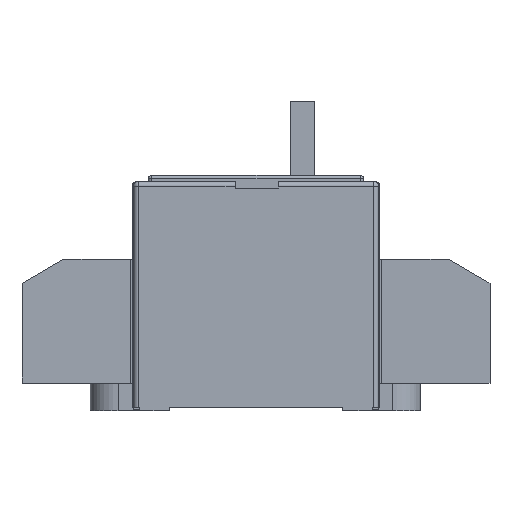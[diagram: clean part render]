
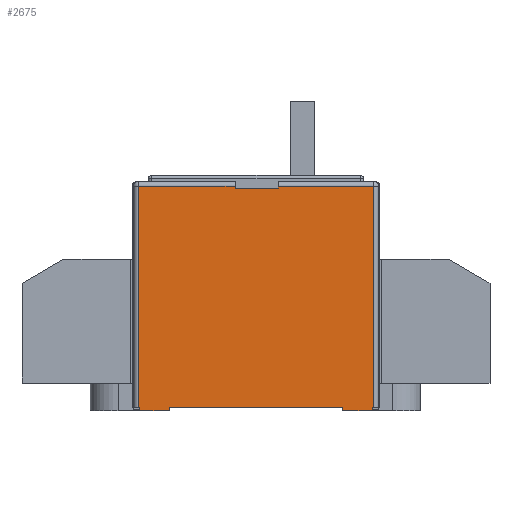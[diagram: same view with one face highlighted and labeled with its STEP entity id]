
A CAD part, left-side view. The second image highlights one B-rep face of the part: STEP entity #2675.
In plain terms, the highlighted planar face has unit normal (-1, 0, 0).
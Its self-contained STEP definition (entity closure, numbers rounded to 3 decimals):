
#802=LINE('',#13640,#1792);
#851=LINE('',#13757,#1841);
#853=LINE('',#13763,#1843);
#932=LINE('',#14112,#1922);
#949=LINE('',#14199,#1939);
#993=LINE('',#14297,#1983);
#998=LINE('',#14309,#1988);
#1000=LINE('',#14312,#1990);
#1006=LINE('',#14325,#1996);
#1174=LINE('',#14667,#2164);
#1180=LINE('',#14678,#2170);
#1181=LINE('',#14682,#2171);
#1182=LINE('',#14684,#2172);
#1183=LINE('',#14686,#2173);
#1184=LINE('',#14687,#2174);
#1185=LINE('',#14688,#2175);
#1792=VECTOR('',#11039,1.);
#1841=VECTOR('',#11124,1.);
#1843=VECTOR('',#11130,1.);
#1922=VECTOR('',#11447,1.);
#1939=VECTOR('',#11564,1.);
#1983=VECTOR('',#11662,1.);
#1988=VECTOR('',#11669,1.);
#1990=VECTOR('',#11673,1.);
#1996=VECTOR('',#11681,1.);
#2164=VECTOR('',#11981,1.);
#2170=VECTOR('',#11993,1.);
#2171=VECTOR('',#11998,1.);
#2172=VECTOR('',#11999,1.);
#2173=VECTOR('',#12000,1.);
#2174=VECTOR('',#12001,1.);
#2175=VECTOR('',#12002,1.);
#2675=ADVANCED_FACE('',(#3436),#2994,.F.);
#2994=PLANE('',#9652);
#3436=FACE_OUTER_BOUND('',#3959,.T.);
#3959=EDGE_LOOP('',(#6078,#6079,#6080,#6081,#6082,#6083,#6084,#6085,#6086,
#6087,#6088,#6089,#6090,#6091,#6092,#6093));
#6078=ORIENTED_EDGE('',*,*,#8576,.F.);
#6079=ORIENTED_EDGE('',*,*,#8325,.T.);
#6080=ORIENTED_EDGE('',*,*,#8127,.T.);
#6081=ORIENTED_EDGE('',*,*,#8071,.F.);
#6082=ORIENTED_EDGE('',*,*,#8130,.T.);
#6083=ORIENTED_EDGE('',*,*,#8282,.T.);
#6084=ORIENTED_EDGE('',*,*,#8578,.T.);
#6085=ORIENTED_EDGE('',*,*,#8579,.T.);
#6086=ORIENTED_EDGE('',*,*,#8580,.F.);
#6087=ORIENTED_EDGE('',*,*,#8375,.F.);
#6088=ORIENTED_EDGE('',*,*,#8380,.T.);
#6089=ORIENTED_EDGE('',*,*,#8581,.T.);
#6090=ORIENTED_EDGE('',*,*,#8388,.F.);
#6091=ORIENTED_EDGE('',*,*,#8382,.F.);
#6092=ORIENTED_EDGE('',*,*,#8570,.T.);
#6093=ORIENTED_EDGE('',*,*,#8582,.T.);
#7048=VERTEX_POINT('',#13639);
#7049=VERTEX_POINT('',#13641);
#7095=VERTEX_POINT('',#13758);
#7097=VERTEX_POINT('',#13764);
#7204=VERTEX_POINT('',#14107);
#7205=VERTEX_POINT('',#14111);
#7253=VERTEX_POINT('',#14298);
#7254=VERTEX_POINT('',#14299);
#7258=VERTEX_POINT('',#14308);
#7259=VERTEX_POINT('',#14313);
#7260=VERTEX_POINT('',#14314);
#7263=VERTEX_POINT('',#14322);
#7372=VERTEX_POINT('',#14666);
#7375=VERTEX_POINT('',#14679);
#7376=VERTEX_POINT('',#14683);
#7377=VERTEX_POINT('',#14685);
#8071=EDGE_CURVE('',#7048,#7049,#802,.T.);
#8127=EDGE_CURVE('',#7095,#7049,#851,.T.);
#8130=EDGE_CURVE('',#7048,#7097,#853,.T.);
#8282=EDGE_CURVE('',#7097,#7205,#932,.T.);
#8325=EDGE_CURVE('',#7204,#7095,#949,.T.);
#8375=EDGE_CURVE('',#7253,#7254,#993,.T.);
#8380=EDGE_CURVE('',#7253,#7258,#998,.T.);
#8382=EDGE_CURVE('',#7259,#7260,#1000,.T.);
#8388=EDGE_CURVE('',#7260,#7263,#1006,.T.);
#8570=EDGE_CURVE('',#7259,#7372,#1174,.T.);
#8576=EDGE_CURVE('',#7204,#7375,#1180,.T.);
#8578=EDGE_CURVE('',#7205,#7376,#1181,.T.);
#8579=EDGE_CURVE('',#7376,#7377,#1182,.T.);
#8580=EDGE_CURVE('',#7254,#7377,#1183,.T.);
#8581=EDGE_CURVE('',#7258,#7263,#1184,.T.);
#8582=EDGE_CURVE('',#7372,#7375,#1185,.T.);
#9652=AXIS2_PLACEMENT_3D('',#14689,#12003,#12004);
#11039=DIRECTION('',(0.,-1.,0.));
#11124=DIRECTION('',(0.,0.,-1.));
#11130=DIRECTION('',(0.,0.,1.));
#11447=DIRECTION('',(0.,1.,0.));
#11564=DIRECTION('',(0.,1.,0.));
#11662=DIRECTION('',(0.,1.,0.));
#11669=DIRECTION('',(0.,0.,1.));
#11673=DIRECTION('',(0.,1.,0.));
#11681=DIRECTION('',(0.,0.,1.));
#11981=DIRECTION('',(0.,0.,1.));
#11993=DIRECTION('',(0.,0.,-1.));
#11998=DIRECTION('',(0.,0.,-1.));
#11999=DIRECTION('',(0.,-1.,0.));
#12000=DIRECTION('',(0.,0.,1.));
#12001=DIRECTION('',(0.,-1.,0.));
#12002=DIRECTION('',(0.,-1.,0.));
#12003=DIRECTION('',(1.,0.,0.));
#12004=DIRECTION('',(0.,0.,-1.));
#13639=CARTESIAN_POINT('',(-69.,-17.985,67.));
#13640=CARTESIAN_POINT('',(-69.,12.765,67.));
#13641=CARTESIAN_POINT('',(-69.,-31.985,67.));
#13757=CARTESIAN_POINT('',(-69.,-31.985,69.1));
#13758=CARTESIAN_POINT('',(-69.,-31.985,67.6));
#13763=CARTESIAN_POINT('',(-69.,-17.985,69.1));
#13764=CARTESIAN_POINT('',(-69.,-17.985,67.6));
#14107=CARTESIAN_POINT('',(-69.,-62.735,67.6));
#14111=CARTESIAN_POINT('',(-69.,13.265,67.6));
#14112=CARTESIAN_POINT('',(-69.,13.265,67.6));
#14199=CARTESIAN_POINT('',(-69.,13.265,67.6));
#14297=CARTESIAN_POINT('',(-69.,3.265,-4.9));
#14298=CARTESIAN_POINT('',(-69.,3.265,-4.9));
#14299=CARTESIAN_POINT('',(-69.,12.765,-4.9));
#14308=CARTESIAN_POINT('',(-69.,3.265,-3.9));
#14309=CARTESIAN_POINT('',(-69.,3.265,-5.9));
#14312=CARTESIAN_POINT('',(-69.,-62.235,-4.9));
#14313=CARTESIAN_POINT('',(-69.,-62.235,-4.9));
#14314=CARTESIAN_POINT('',(-69.,-52.735,-4.9));
#14322=CARTESIAN_POINT('',(-69.,-52.735,-3.9));
#14325=CARTESIAN_POINT('',(-69.,-52.735,-5.9));
#14666=CARTESIAN_POINT('',(-69.,-62.235,-3.9));
#14667=CARTESIAN_POINT('',(-69.,-62.235,-5.9));
#14678=CARTESIAN_POINT('',(-69.,-62.735,69.1));
#14679=CARTESIAN_POINT('',(-69.,-62.735,-3.9));
#14682=CARTESIAN_POINT('',(-69.,13.265,69.1));
#14683=CARTESIAN_POINT('',(-69.,13.265,-3.9));
#14684=CARTESIAN_POINT('',(-69.,-62.235,-3.9));
#14685=CARTESIAN_POINT('',(-69.,12.765,-3.9));
#14686=CARTESIAN_POINT('',(-69.,12.765,-5.9));
#14687=CARTESIAN_POINT('',(-69.,-62.235,-3.9));
#14688=CARTESIAN_POINT('',(-69.,-62.235,-3.9));
#14689=CARTESIAN_POINT('',(-69.,-62.235,69.1));
